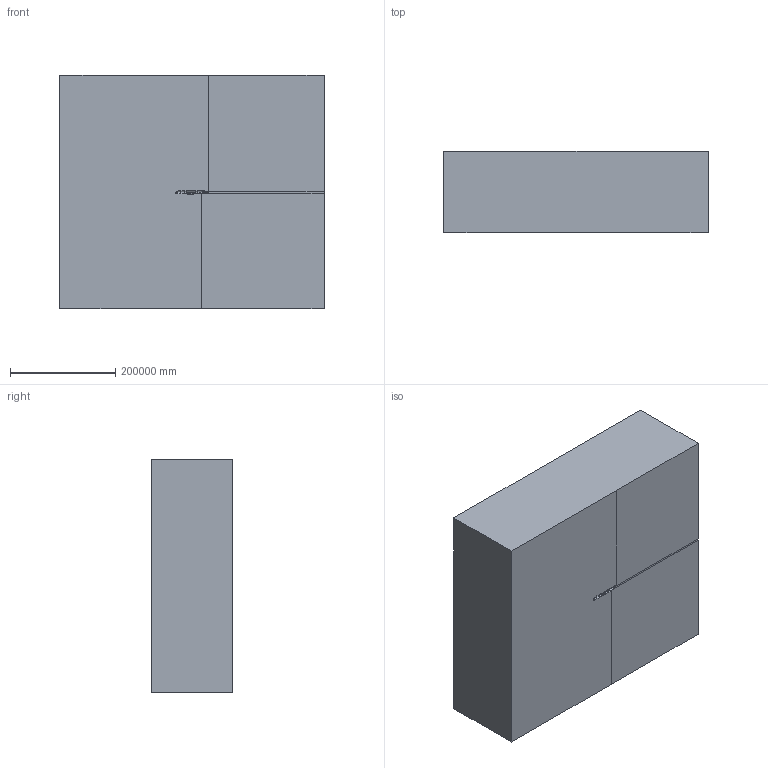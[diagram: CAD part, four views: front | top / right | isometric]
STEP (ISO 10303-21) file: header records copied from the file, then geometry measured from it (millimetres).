
FILE_DESCRIPTION(/* description */ (''),/* implementation_level */ '2;1');
FILE_NAME(/* name */ 'v2_half_crm_bigDom.stp',/* time_stamp */ '2022-06-22T21:24:21+02:00',/* author */ (''),/* organization */ (''),/* preprocessor_version */ 'ST-DEVELOPER v16.7',/* originating_system */ 'SIEMENS PLM Software NX 1859',/* authorisation */ '');
FILE_SCHEMA (('AUTOMOTIVE_DESIGN { 1 0 10303 214 3 1 1 1 }'));
Products named in the file (1): Guil453806E9w6n5
Bounding box: 502059.45 x 154941.48 x 444251.81 mm (x, y, z)
Surface area: 749456852558.1 mm2 (no closed solid volume)
Topology: 0 solids, 3 shells, 48 faces, 152 edges, 105 vertices
Faces by surface type: bspline 36, plane 11, cylinder 1
Entity records: 206737 total; most frequent: CARTESIAN_POINT 205667, ORIENTED_EDGE 283, EDGE_CURVE 149, B_SPLINE_CURVE_WITH_KNOTS 129, VERTEX_POINT 105, ADVANCED_FACE 48, FACE_OUTER_BOUND 48, EDGE_LOOP 48
